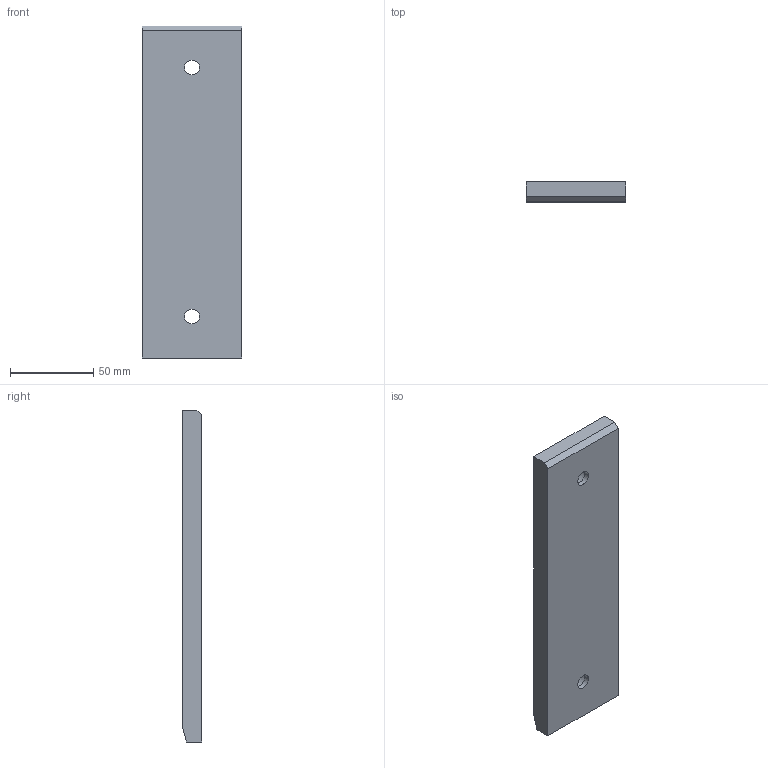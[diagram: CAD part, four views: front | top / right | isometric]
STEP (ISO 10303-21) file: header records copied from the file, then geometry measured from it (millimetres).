
FILE_DESCRIPTION (( 'STEP AP214' ), '1' );
FILE_NAME ('SW222-01-60x200.STEP', '2020-10-14T12:50:44', ( 'August' ), ( '' ), 'SwSTEP 2.0', 'SolidWorks 2018', '' );
FILE_SCHEMA (( 'AUTOMOTIVE_DESIGN' ));
Length unit declared in the file: millimetre
Products named in the file (1): SW222-01-60x200
Bounding box: 60 x 12 x 200 mm (x, y, z)
Volume: 119525.7 mm3; surface area: 40607.5 mm2
Topology: 1 solids, 1 shells, 197 faces, 401 edges, 266 vertices
Faces by surface type: cylinder 125, plane 68, cone 4
Entity records: 5592 total; most frequent: DIRECTION 1051, CARTESIAN_POINT 865, ORIENTED_EDGE 802, AXIS2_PLACEMENT_3D 452, EDGE_CURVE 401, VERTEX_POINT 266, EDGE_LOOP 261, CIRCLE 254
